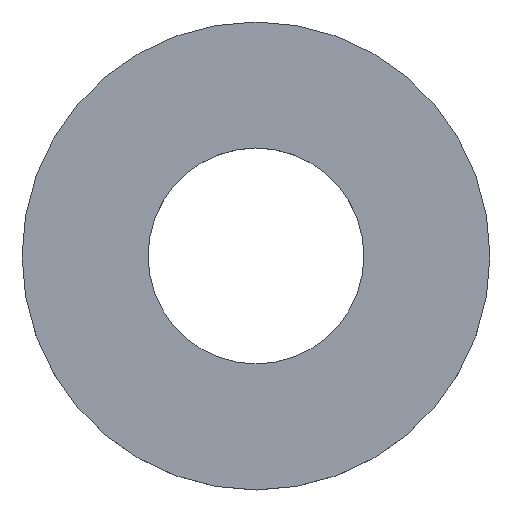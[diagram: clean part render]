
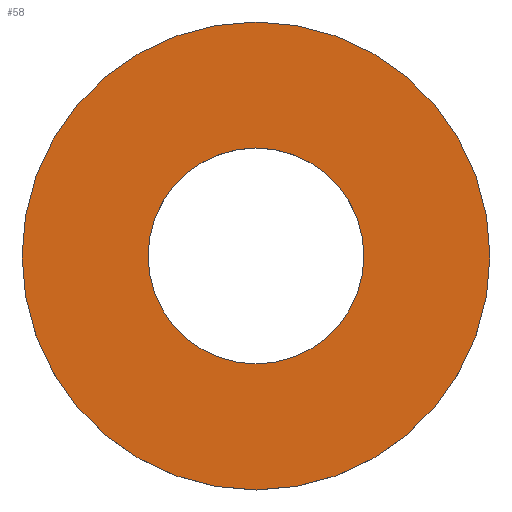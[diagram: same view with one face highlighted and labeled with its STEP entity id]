
A CAD part, top view. The second image highlights one B-rep face of the part: STEP entity #58.
In plain terms, the highlighted planar face has unit normal (0, 0, 1).
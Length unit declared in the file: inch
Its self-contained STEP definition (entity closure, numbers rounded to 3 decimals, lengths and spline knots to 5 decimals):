
#16=PLANE('',#68);
#20=FACE_BOUND('',#32,.T.);
#24=FACE_OUTER_BOUND('',#31,.T.);
#31=EDGE_LOOP('',(#51));
#32=EDGE_LOOP('',(#52));
#33=CIRCLE('',#62,0.75);
#35=CIRCLE('',#65,1.625);
#37=VERTEX_POINT('',#89);
#39=VERTEX_POINT('',#94);
#41=EDGE_CURVE('',#37,#37,#33,.T.);
#43=EDGE_CURVE('',#39,#39,#35,.T.);
#51=ORIENTED_EDGE('',*,*,#43,.T.);
#52=ORIENTED_EDGE('',*,*,#41,.T.);
#58=ADVANCED_FACE('',(#24,#20),#16,.T.);
#62=AXIS2_PLACEMENT_3D('',#90,#73,#74);
#65=AXIS2_PLACEMENT_3D('',#95,#79,#80);
#68=AXIS2_PLACEMENT_3D('',#99,#85,#86);
#73=DIRECTION('center_axis',(0.,0.,-1.));
#74=DIRECTION('ref_axis',(-1.,0.,0.));
#79=DIRECTION('center_axis',(0.,0.,1.));
#80=DIRECTION('ref_axis',(-1.,0.,0.));
#85=DIRECTION('center_axis',(0.,0.,1.));
#86=DIRECTION('ref_axis',(1.,0.,0.));
#89=CARTESIAN_POINT('',(0.75,0.,0.25));
#90=CARTESIAN_POINT('Origin',(0.,0.,0.25));
#94=CARTESIAN_POINT('',(1.625,0.,0.25));
#95=CARTESIAN_POINT('Origin',(0.,0.,0.25));
#99=CARTESIAN_POINT('Origin',(0.,0.,
0.25));
